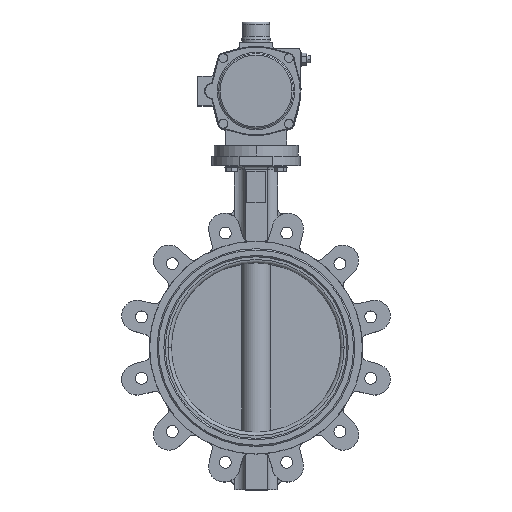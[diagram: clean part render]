
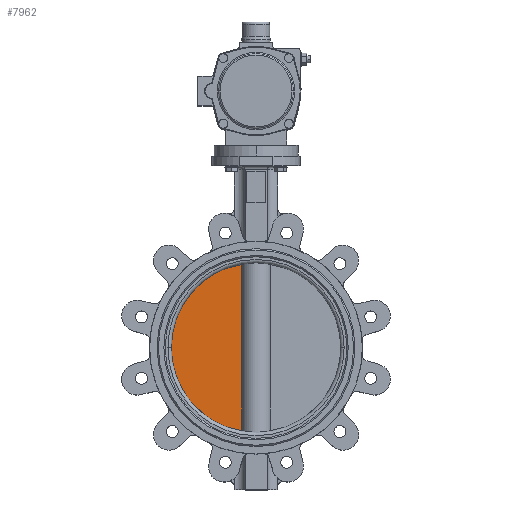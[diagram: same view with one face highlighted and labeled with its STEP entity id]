
A CAD part, top view. The second image highlights one B-rep face of the part: STEP entity #7962.
In plain terms, the highlighted planar face has unit normal (0, 0, 1).
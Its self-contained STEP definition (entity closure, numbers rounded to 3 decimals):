
#552 = DIRECTION ( 'NONE',  ( 0., 0., -1. ) ) ;
#773 = EDGE_CURVE ( 'NONE', #25959, #23803, #14145, .T. ) ;
#1860 = DIRECTION ( 'NONE',  ( -1., 0., 0. ) ) ;
#1886 = EDGE_LOOP ( 'NONE', ( #22659, #13115, #4923 ) ) ;
#2390 = CARTESIAN_POINT ( 'NONE',  ( 0., 0., 6. ) ) ;
#3344 = DIRECTION ( 'NONE',  ( -1., 0., 0. ) ) ;
#4025 = LINE ( 'NONE', #8426, #15043 ) ;
#4923 = ORIENTED_EDGE ( 'NONE', *, *, #25777, .F. ) ;
#6716 = CARTESIAN_POINT ( 'NONE',  ( -21.166, 123.195, 6. ) ) ;
#7183 = CARTESIAN_POINT ( 'NONE',  ( -21.166, -123.195, 6. ) ) ;
#7396 = AXIS2_PLACEMENT_3D ( 'NONE', #2390, #22187, #1860 ) ;
#7630 = DIRECTION ( 'NONE',  ( 0., 0., -1. ) ) ;
#7962 = ADVANCED_FACE ( 'NONE', ( #12706 ), #15006, .F. ) ;
#8426 = CARTESIAN_POINT ( 'NONE',  ( -21.166, 312.501, 6. ) ) ;
#8679 = DIRECTION ( 'NONE',  ( -1., 0., 0. ) ) ;
#10561 = CARTESIAN_POINT ( 'NONE',  ( -127., 312.501, 6. ) ) ;
#12706 = FACE_OUTER_BOUND ( 'NONE', #1886, .T. ) ;
#13115 = ORIENTED_EDGE ( 'NONE', *, *, #20575, .F. ) ;
#13535 = CARTESIAN_POINT ( 'NONE',  ( 0., 0., 6. ) ) ;
#14145 = CIRCLE ( 'NONE', #25653, 125. ) ;
#14996 = CARTESIAN_POINT ( 'NONE',  ( -125., 0., 6. ) ) ;
#15006 = PLANE ( 'NONE',  #19668 ) ;
#15043 = VECTOR ( 'NONE', #22496, 1000. ) ;
#15987 = CIRCLE ( 'NONE', #7396, 125. ) ;
#17072 = VERTEX_POINT ( 'NONE', #6716 ) ;
#19668 = AXIS2_PLACEMENT_3D ( 'NONE', #10561, #552, #8679 ) ;
#20575 = EDGE_CURVE ( 'NONE', #17072, #25959, #4025, .T. ) ;
#22187 = DIRECTION ( 'NONE',  ( 0., 0., -1. ) ) ;
#22496 = DIRECTION ( 'NONE',  ( 0., -1., 0. ) ) ;
#22659 = ORIENTED_EDGE ( 'NONE', *, *, #773, .F. ) ;
#23803 = VERTEX_POINT ( 'NONE', #14996 ) ;
#25653 = AXIS2_PLACEMENT_3D ( 'NONE', #13535, #7630, #3344 ) ;
#25777 = EDGE_CURVE ( 'NONE', #23803, #17072, #15987, .T. ) ;
#25959 = VERTEX_POINT ( 'NONE', #7183 ) ;
